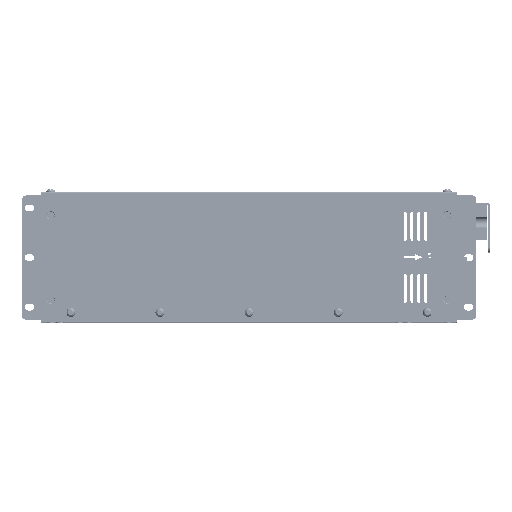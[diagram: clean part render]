
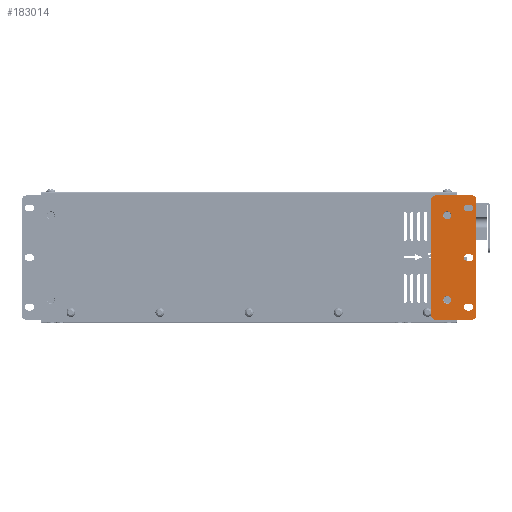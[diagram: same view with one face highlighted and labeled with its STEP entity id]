
A CAD part, top view. The second image highlights one B-rep face of the part: STEP entity #183014.
In plain terms, the highlighted planar face has unit normal (0, 0, 1).
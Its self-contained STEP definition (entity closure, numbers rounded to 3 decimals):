
#3681=FACE_BOUND('',#32388,.T.);
#3682=FACE_BOUND('',#32389,.T.);
#3683=FACE_BOUND('',#32390,.T.);
#3684=FACE_BOUND('',#32391,.T.);
#3685=FACE_BOUND('',#32392,.T.);
#12174=PLANE('',#196238);
#21727=FACE_OUTER_BOUND('',#32387,.T.);
#32387=EDGE_LOOP('',(#160617,#160618,#160619,#160620,#160621,#160622,#160623,
#160624));
#32388=EDGE_LOOP('',(#160625));
#32389=EDGE_LOOP('',(#160626));
#32390=EDGE_LOOP('',(#160627,#160628,#160629,#160630));
#32391=EDGE_LOOP('',(#160631,#160632,#160633,#160634));
#32392=EDGE_LOOP('',(#160635,#160636,#160637,#160638));
#37340=CIRCLE('',#196239,4.);
#37341=CIRCLE('',#196240,4.);
#37342=CIRCLE('',#196241,4.);
#37343=CIRCLE('',#196242,4.);
#37344=CIRCLE('',#196243,4.);
#37345=CIRCLE('',#196244,4.);
#37346=CIRCLE('',#196245,3.3);
#37347=CIRCLE('',#196246,3.3);
#37348=CIRCLE('',#196247,3.3);
#37349=CIRCLE('',#196248,3.3);
#37350=CIRCLE('',#196249,3.3);
#37351=CIRCLE('',#196250,3.3);
#53642=LINE('',#333651,#69998);
#53643=LINE('',#333655,#69999);
#53644=LINE('',#333659,#70000);
#53645=LINE('',#333663,#70001);
#53646=LINE('',#333671,#70002);
#53647=LINE('',#333675,#70003);
#53648=LINE('',#333679,#70004);
#53649=LINE('',#333683,#70005);
#53650=LINE('',#333687,#70006);
#53651=LINE('',#333691,#70007);
#69998=VECTOR('',#238587,10.);
#69999=VECTOR('',#238590,10.);
#70000=VECTOR('',#238593,10.);
#70001=VECTOR('',#238596,10.);
#70002=VECTOR('',#238603,10.);
#70003=VECTOR('',#238606,10.);
#70004=VECTOR('',#238609,10.);
#70005=VECTOR('',#238612,10.);
#70006=VECTOR('',#238615,10.);
#70007=VECTOR('',#238618,10.);
#86268=VERTEX_POINT('',#333649);
#86269=VERTEX_POINT('',#333650);
#86270=VERTEX_POINT('',#333652);
#86271=VERTEX_POINT('',#333654);
#86272=VERTEX_POINT('',#333656);
#86273=VERTEX_POINT('',#333658);
#86274=VERTEX_POINT('',#333660);
#86275=VERTEX_POINT('',#333662);
#86276=VERTEX_POINT('',#333665);
#86277=VERTEX_POINT('',#333667);
#86278=VERTEX_POINT('',#333669);
#86279=VERTEX_POINT('',#333670);
#86280=VERTEX_POINT('',#333672);
#86281=VERTEX_POINT('',#333674);
#86282=VERTEX_POINT('',#333677);
#86283=VERTEX_POINT('',#333678);
#86284=VERTEX_POINT('',#333680);
#86285=VERTEX_POINT('',#333682);
#86286=VERTEX_POINT('',#333685);
#86287=VERTEX_POINT('',#333686);
#86288=VERTEX_POINT('',#333688);
#86289=VERTEX_POINT('',#333690);
#111149=EDGE_CURVE('',#86268,#86269,#53642,.T.);
#111150=EDGE_CURVE('',#86269,#86270,#37340,.T.);
#111151=EDGE_CURVE('',#86270,#86271,#53643,.T.);
#111152=EDGE_CURVE('',#86271,#86272,#37341,.T.);
#111153=EDGE_CURVE('',#86272,#86273,#53644,.T.);
#111154=EDGE_CURVE('',#86273,#86274,#37342,.T.);
#111155=EDGE_CURVE('',#86274,#86275,#53645,.T.);
#111156=EDGE_CURVE('',#86275,#86268,#37343,.T.);
#111157=EDGE_CURVE('',#86276,#86276,#37344,.T.);
#111158=EDGE_CURVE('',#86277,#86277,#37345,.T.);
#111159=EDGE_CURVE('',#86278,#86279,#53646,.T.);
#111160=EDGE_CURVE('',#86279,#86280,#37346,.T.);
#111161=EDGE_CURVE('',#86280,#86281,#53647,.T.);
#111162=EDGE_CURVE('',#86281,#86278,#37347,.T.);
#111163=EDGE_CURVE('',#86282,#86283,#53648,.T.);
#111164=EDGE_CURVE('',#86283,#86284,#37348,.T.);
#111165=EDGE_CURVE('',#86284,#86285,#53649,.T.);
#111166=EDGE_CURVE('',#86285,#86282,#37349,.T.);
#111167=EDGE_CURVE('',#86286,#86287,#53650,.T.);
#111168=EDGE_CURVE('',#86287,#86288,#37350,.T.);
#111169=EDGE_CURVE('',#86288,#86289,#53651,.T.);
#111170=EDGE_CURVE('',#86289,#86286,#37351,.T.);
#160617=ORIENTED_EDGE('',*,*,#111149,.T.);
#160618=ORIENTED_EDGE('',*,*,#111150,.T.);
#160619=ORIENTED_EDGE('',*,*,#111151,.T.);
#160620=ORIENTED_EDGE('',*,*,#111152,.T.);
#160621=ORIENTED_EDGE('',*,*,#111153,.T.);
#160622=ORIENTED_EDGE('',*,*,#111154,.T.);
#160623=ORIENTED_EDGE('',*,*,#111155,.T.);
#160624=ORIENTED_EDGE('',*,*,#111156,.T.);
#160625=ORIENTED_EDGE('',*,*,#111157,.T.);
#160626=ORIENTED_EDGE('',*,*,#111158,.T.);
#160627=ORIENTED_EDGE('',*,*,#111159,.T.);
#160628=ORIENTED_EDGE('',*,*,#111160,.T.);
#160629=ORIENTED_EDGE('',*,*,#111161,.T.);
#160630=ORIENTED_EDGE('',*,*,#111162,.T.);
#160631=ORIENTED_EDGE('',*,*,#111163,.T.);
#160632=ORIENTED_EDGE('',*,*,#111164,.T.);
#160633=ORIENTED_EDGE('',*,*,#111165,.T.);
#160634=ORIENTED_EDGE('',*,*,#111166,.T.);
#160635=ORIENTED_EDGE('',*,*,#111167,.T.);
#160636=ORIENTED_EDGE('',*,*,#111168,.T.);
#160637=ORIENTED_EDGE('',*,*,#111169,.T.);
#160638=ORIENTED_EDGE('',*,*,#111170,.T.);
#183014=ADVANCED_FACE('',(#21727,#3681,#3682,#3683,#3684,#3685),#12174,
 .T.);
#196238=AXIS2_PLACEMENT_3D('',#333648,#238585,#238586);
#196239=AXIS2_PLACEMENT_3D('',#333653,#238588,#238589);
#196240=AXIS2_PLACEMENT_3D('',#333657,#238591,#238592);
#196241=AXIS2_PLACEMENT_3D('',#333661,#238594,#238595);
#196242=AXIS2_PLACEMENT_3D('',#333664,#238597,#238598);
#196243=AXIS2_PLACEMENT_3D('',#333666,#238599,#238600);
#196244=AXIS2_PLACEMENT_3D('',#333668,#238601,#238602);
#196245=AXIS2_PLACEMENT_3D('',#333673,#238604,#238605);
#196246=AXIS2_PLACEMENT_3D('',#333676,#238607,#238608);
#196247=AXIS2_PLACEMENT_3D('',#333681,#238610,#238611);
#196248=AXIS2_PLACEMENT_3D('',#333684,#238613,#238614);
#196249=AXIS2_PLACEMENT_3D('',#333689,#238616,#238617);
#196250=AXIS2_PLACEMENT_3D('',#333692,#238619,#238620);
#238585=DIRECTION('center_axis',(0.,0.,
1.));
#238586=DIRECTION('ref_axis',(0.,-1.,0.));
#238587=DIRECTION('',(-1.,0.,0.));
#238588=DIRECTION('center_axis',(0.,0.,
1.));
#238589=DIRECTION('ref_axis',(0.,1.,0.));
#238590=DIRECTION('',(0.,-1.,0.));
#238591=DIRECTION('center_axis',(0.,0.,
1.));
#238592=DIRECTION('ref_axis',(-1.,0.,0.));
#238593=DIRECTION('',(1.,0.,0.));
#238594=DIRECTION('center_axis',(0.,0.,
1.));
#238595=DIRECTION('ref_axis',(0.,-1.,0.));
#238596=DIRECTION('',(0.,1.,0.));
#238597=DIRECTION('center_axis',(0.,0.,
1.));
#238598=DIRECTION('ref_axis',(1.,0.,0.));
#238599=DIRECTION('center_axis',(0.,0.,
-1.));
#238600=DIRECTION('ref_axis',(-1.,0.,0.));
#238601=DIRECTION('center_axis',(0.,0.,
-1.));
#238602=DIRECTION('ref_axis',(-1.,0.,0.));
#238603=DIRECTION('',(1.,0.,0.));
#238604=DIRECTION('center_axis',(0.,0.,
-1.));
#238605=DIRECTION('ref_axis',(0.,1.,0.));
#238606=DIRECTION('',(-1.,0.,0.));
#238607=DIRECTION('center_axis',(0.,0.,
-1.));
#238608=DIRECTION('ref_axis',(0.,-1.,0.));
#238609=DIRECTION('',(1.,0.,0.));
#238610=DIRECTION('center_axis',(0.,0.,
-1.));
#238611=DIRECTION('ref_axis',(0.,1.,0.));
#238612=DIRECTION('',(-1.,0.,0.));
#238613=DIRECTION('center_axis',(0.,0.,
-1.));
#238614=DIRECTION('ref_axis',(0.,-1.,0.));
#238615=DIRECTION('',(1.,0.,0.));
#238616=DIRECTION('center_axis',(0.,0.,
-1.));
#238617=DIRECTION('ref_axis',(0.,1.,0.));
#238618=DIRECTION('',(-1.,0.,0.));
#238619=DIRECTION('center_axis',(0.,0.,
-1.));
#238620=DIRECTION('ref_axis',(0.,-1.,0.));
#333648=CARTESIAN_POINT('Origin',(205.905,-3.386,125.5));
#333649=CARTESIAN_POINT('',(224.405,59.114,125.5));
#333650=CARTESIAN_POINT('',(187.405,59.114,125.5));
#333651=CARTESIAN_POINT('',(224.405,59.114,125.5));
#333652=CARTESIAN_POINT('',(183.405,55.114,125.5));
#333653=CARTESIAN_POINT('Origin',(187.405,55.114,125.5));
#333654=CARTESIAN_POINT('',(183.405,-61.886,125.5));
#333655=CARTESIAN_POINT('',(183.405,55.114,125.5));
#333656=CARTESIAN_POINT('',(187.405,-65.886,125.5));
#333657=CARTESIAN_POINT('Origin',(187.405,-61.886,125.5));
#333658=CARTESIAN_POINT('',(224.405,-65.886,125.5));
#333659=CARTESIAN_POINT('',(187.405,-65.886,125.5));
#333660=CARTESIAN_POINT('',(228.405,-61.886,125.5));
#333661=CARTESIAN_POINT('Origin',(224.405,-61.886,125.5));
#333662=CARTESIAN_POINT('',(228.405,55.114,125.5));
#333663=CARTESIAN_POINT('',(228.405,-61.886,125.5));
#333664=CARTESIAN_POINT('Origin',(224.405,55.114,125.5));
#333665=CARTESIAN_POINT('',(203.405,39.114,125.5));
#333666=CARTESIAN_POINT('Origin',(199.405,39.114,125.5));
#333667=CARTESIAN_POINT('',(203.405,-45.886,125.5));
#333668=CARTESIAN_POINT('Origin',(199.405,-45.886,125.5));
#333669=CARTESIAN_POINT('',(219.405,-50.086,125.5));
#333670=CARTESIAN_POINT('',(222.405,-50.086,125.5));
#333671=CARTESIAN_POINT('',(219.405,-50.086,125.5));
#333672=CARTESIAN_POINT('',(222.405,-56.686,125.5));
#333673=CARTESIAN_POINT('Origin',(222.405,-53.386,125.5));
#333674=CARTESIAN_POINT('',(219.405,-56.686,125.5));
#333675=CARTESIAN_POINT('',(222.405,-56.686,125.5));
#333676=CARTESIAN_POINT('Origin',(219.405,-53.386,125.5));
#333677=CARTESIAN_POINT('',(219.405,-0.086,125.5));
#333678=CARTESIAN_POINT('',(222.405,-0.086,125.5));
#333679=CARTESIAN_POINT('',(219.405,-0.086,125.5));
#333680=CARTESIAN_POINT('',(222.405,-6.686,125.5));
#333681=CARTESIAN_POINT('Origin',(222.405,-3.386,125.5));
#333682=CARTESIAN_POINT('',(219.405,-6.686,125.5));
#333683=CARTESIAN_POINT('',(222.405,-6.686,125.5));
#333684=CARTESIAN_POINT('Origin',(219.405,-3.386,125.5));
#333685=CARTESIAN_POINT('',(219.405,49.914,125.5));
#333686=CARTESIAN_POINT('',(222.405,49.914,125.5));
#333687=CARTESIAN_POINT('',(219.405,49.914,125.5));
#333688=CARTESIAN_POINT('',(222.405,43.314,125.5));
#333689=CARTESIAN_POINT('Origin',(222.405,46.614,125.5));
#333690=CARTESIAN_POINT('',(219.405,43.314,125.5));
#333691=CARTESIAN_POINT('',(222.405,43.314,125.5));
#333692=CARTESIAN_POINT('Origin',(219.405,46.614,125.5));
